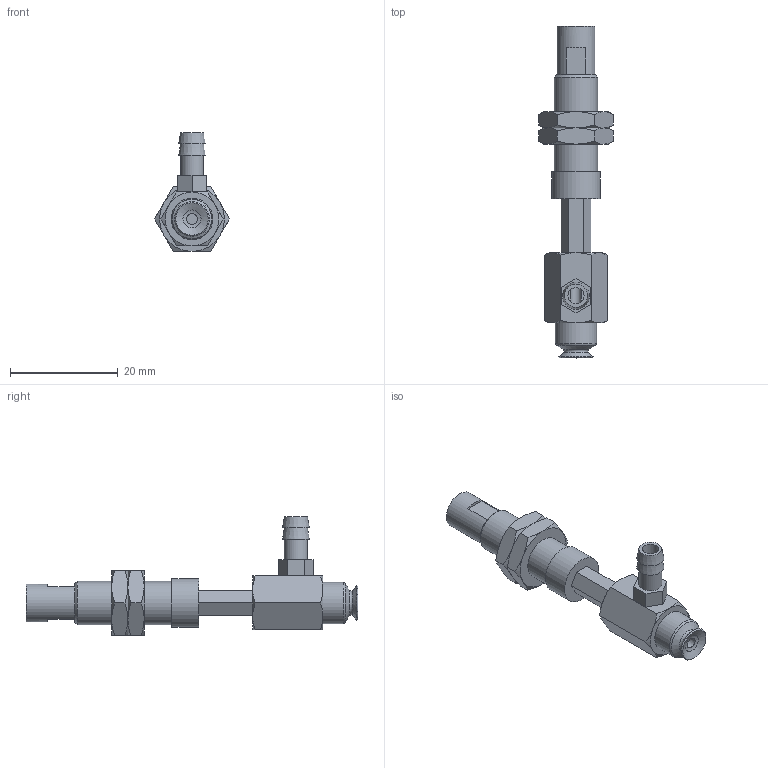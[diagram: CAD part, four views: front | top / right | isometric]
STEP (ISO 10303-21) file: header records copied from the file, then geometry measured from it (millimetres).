
FILE_DESCRIPTION(('STEP AP203'),'1');
FILE_NAME('-T.stp','2025-04-10T02:55:43',(' '),(' '),'Spatial InterOp 3D',' ',' ');
FILE_SCHEMA(('CONFIG_CONTROL_DESIGN'));
Length unit declared in the file: millimetre
Products named in the file (7): BNABPFYH-6A-10-※-T; CONNECTOR-H-6A-10; Nut-6A-10-h; NAPFTH-6A-10-FBODY; NAPFTH-6A-10-MBODY; BPFG-6A-※; T
Assembly tree (7 placements, depth 2):
  BNABPFYH-6A-10-※-T
    CONNECTOR-H-6A-10
    Nut-6A-10-h  x2
    NAPFTH-6A-10-FBODY
    NAPFTH-6A-10-MBODY
    BPFG-6A-※
    T
Bounding box: 13.86 x 61.5 x 22 mm (x, y, z)
Volume: 3541.7 mm3; surface area: 4506 mm2
Topology: 7 solids, 7 shells, 156 faces, 334 edges, 204 vertices
Faces by surface type: plane 74, cone 54, cylinder 18, torus 9, bspline 1
Full cylindrical faces by diameter (mm): 2 x2, 3 x1, 4 x2, 4.134 x2, 4.3 x1, 5 x2, 6 x2, 7 x1, 7.188 x2, 7.7 x1, 8 x1, 9 x1
Entity records: 3929 total; most frequent: CARTESIAN_POINT 922, DIRECTION 552, ORIENTED_EDGE 474, EDGE_CURVE 237, AXIS2_PLACEMENT_3D 229, EDGE_LOOP 198, VERTEX_POINT 169, FACE_OUTER_BOUND 160
